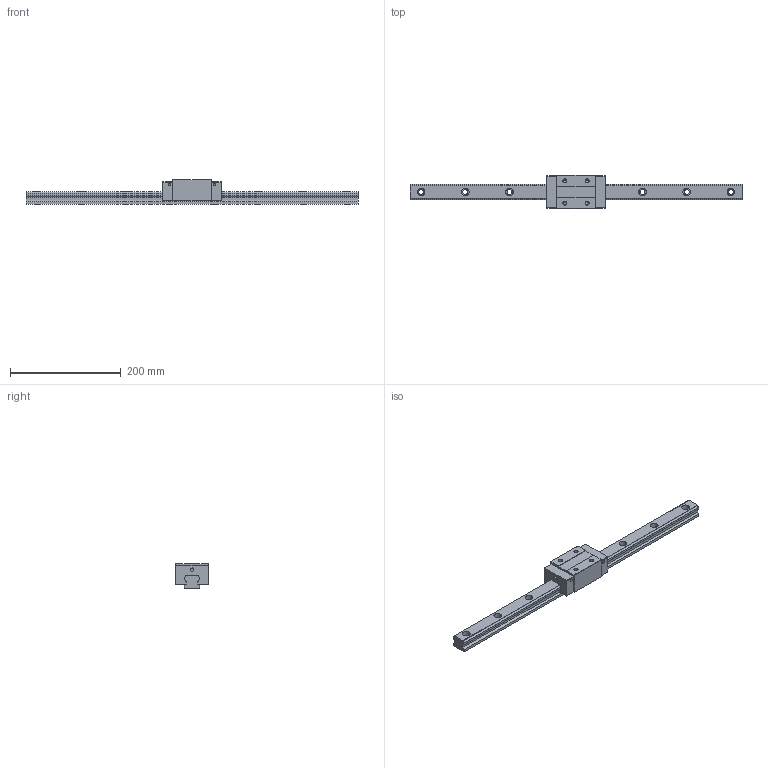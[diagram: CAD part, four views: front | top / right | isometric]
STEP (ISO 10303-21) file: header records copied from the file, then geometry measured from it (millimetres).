
FILE_DESCRIPTION (( 'STEP AP203' ), '1' );
FILE_NAME ('TRH30VN-ZN.STEP', '2024-05-20T07:35:24', ( '' ), ( '' ), 'SwSTEP 2.0', 'SolidWorks 2022', '' );
FILE_SCHEMA (( 'CONFIG_CONTROL_DESIGN' ));
Length unit declared in the file: millimetre
Products named in the file (1): TRH30VN-ZN
Bounding box: 600 x 60 x 45 mm (x, y, z)
Volume: 508609 mm3; surface area: 99278.5 mm2
Topology: 2 solids, 2 shells, 186 faces, 488 edges, 316 vertices
Faces by surface type: cylinder 88, plane 82, cone 16
Entity records: 5819 total; most frequent: DIRECTION 1038, CARTESIAN_POINT 983, ORIENTED_EDGE 960, EDGE_CURVE 480, AXIS2_PLACEMENT_3D 371, VERTEX_POINT 316, VECTOR 296, LINE 296
